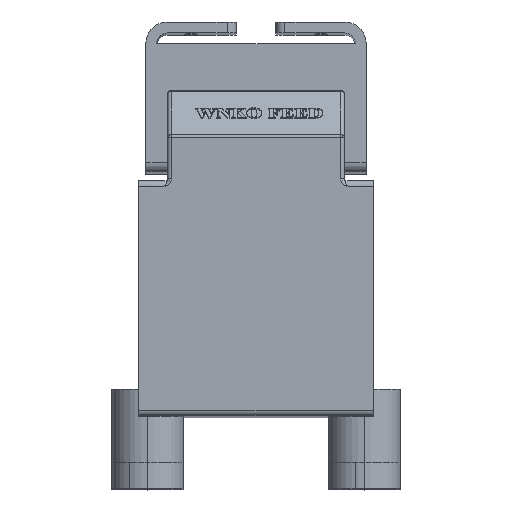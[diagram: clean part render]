
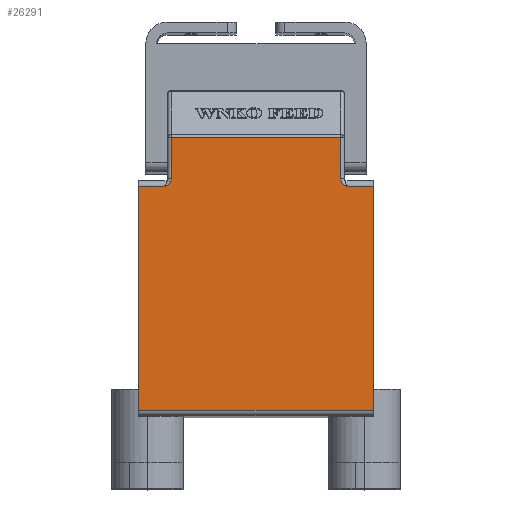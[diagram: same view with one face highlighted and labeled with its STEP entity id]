
A CAD part, top view. The second image highlights one B-rep face of the part: STEP entity #26291.
In plain terms, the highlighted planar face has unit normal (0, 0, 1).
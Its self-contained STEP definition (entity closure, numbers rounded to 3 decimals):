
#346 = ORIENTED_EDGE ( 'NONE', *, *, #31186, .F. ) ;
#682 = EDGE_CURVE ( 'NONE', #13020, #17211, #31036, .T. ) ;
#1120 = LINE ( 'NONE', #13620, #9097 ) ;
#1581 = FACE_OUTER_BOUND ( 'NONE', #20377, .T. ) ;
#1695 = EDGE_CURVE ( 'NONE', #15950, #2342, #11025, .T. ) ;
#1891 = CARTESIAN_POINT ( 'NONE',  ( -793.117, 127., 0. ) ) ;
#2342 = VERTEX_POINT ( 'NONE', #26799 ) ;
#2395 = ORIENTED_EDGE ( 'NONE', *, *, #10379, .T. ) ;
#2530 = CARTESIAN_POINT ( 'NONE',  ( -10., 127., 0. ) ) ;
#3690 = ORIENTED_EDGE ( 'NONE', *, *, #9806, .T. ) ;
#3816 = CARTESIAN_POINT ( 'NONE',  ( 8., 131., 0. ) ) ;
#4227 = ORIENTED_EDGE ( 'NONE', *, *, #25905, .F. ) ;
#4577 = PLANE ( 'NONE',  #14766 ) ;
#4722 = CARTESIAN_POINT ( 'NONE',  ( -793.117, 127., 0. ) ) ;
#4904 = LINE ( 'NONE', #31406, #17383 ) ;
#5298 = CARTESIAN_POINT ( 'NONE',  ( 8., 15., 0. ) ) ;
#6145 = CARTESIAN_POINT ( 'NONE',  ( 102., 154.172, 0. ) ) ;
#6899 = VECTOR ( 'NONE', #17850, 1000. ) ;
#7178 = ORIENTED_EDGE ( 'NONE', *, *, #682, .T. ) ;
#8672 = CARTESIAN_POINT ( 'NONE',  ( 102., 15., 0. ) ) ;
#9097 = VECTOR ( 'NONE', #18059, 1000. ) ;
#9396 = VECTOR ( 'NONE', #11363, 1000. ) ;
#9806 = EDGE_CURVE ( 'NONE', #15950, #13020, #19229, .T. ) ;
#9927 = DIRECTION ( 'NONE',  ( -1., 0., 0. ) ) ;
#10379 = EDGE_CURVE ( 'NONE', #17211, #17198, #1120, .T. ) ;
#10761 = VECTOR ( 'NONE', #19092, 1000. ) ;
#10885 = VECTOR ( 'NONE', #26768, 1000. ) ;
#11025 = LINE ( 'NONE', #13087, #6899 ) ;
#11363 = DIRECTION ( 'NONE',  ( 0., 1., 0. ) ) ;
#11751 = CIRCLE ( 'NONE', #19341, 4. ) ;
#12899 = EDGE_CURVE ( 'NONE', #14660, #28188, #11751, .T. ) ;
#12934 = LINE ( 'NONE', #2530, #19357 ) ;
#13020 = VERTEX_POINT ( 'NONE', #15924 ) ;
#13087 = CARTESIAN_POINT ( 'NONE',  ( -793.117, 127., 0. ) ) ;
#13105 = EDGE_CURVE ( 'NONE', #2342, #30356, #23844, .T. ) ;
#13620 = CARTESIAN_POINT ( 'NONE',  ( 109., 154.172, 0. ) ) ;
#14660 = VERTEX_POINT ( 'NONE', #3816 ) ;
#14766 = AXIS2_PLACEMENT_3D ( 'NONE', #1891, #28223, #16147 ) ;
#15434 = ORIENTED_EDGE ( 'NONE', *, *, #12899, .T. ) ;
#15528 = ORIENTED_EDGE ( 'NONE', *, *, #28182, .T. ) ;
#15924 = CARTESIAN_POINT ( 'NONE',  ( 102., 131., 0. ) ) ;
#15950 = VERTEX_POINT ( 'NONE', #18407 ) ;
#16147 = DIRECTION ( 'NONE',  ( 0., -1., 0. ) ) ;
#17198 = VERTEX_POINT ( 'NONE', #20722 ) ;
#17211 = VERTEX_POINT ( 'NONE', #6145 ) ;
#17311 = CARTESIAN_POINT ( 'NONE',  ( 106., 131., 0. ) ) ;
#17383 = VECTOR ( 'NONE', #26328, 1000. ) ;
#17850 = DIRECTION ( 'NONE',  ( 1., 0., 0. ) ) ;
#18059 = DIRECTION ( 'NONE',  ( -1., 0., 0. ) ) ;
#18172 = DIRECTION ( 'NONE',  ( 0., 1., 0. ) ) ;
#18407 = CARTESIAN_POINT ( 'NONE',  ( 106., 127., 0. ) ) ;
#19092 = DIRECTION ( 'NONE',  ( 0., -1., 0. ) ) ;
#19229 = CIRCLE ( 'NONE', #21750, 4. ) ;
#19341 = AXIS2_PLACEMENT_3D ( 'NONE', #24831, #29430, #9927 ) ;
#19357 = VECTOR ( 'NONE', #18172, 1000. ) ;
#19448 = CARTESIAN_POINT ( 'NONE',  ( -10., 127., 0. ) ) ;
#19697 = ORIENTED_EDGE ( 'NONE', *, *, #13105, .F. ) ;
#19773 = LINE ( 'NONE', #4722, #10885 ) ;
#20377 = EDGE_LOOP ( 'NONE', ( #19697, #24186, #3690, #7178, #2395, #26901, #15434, #346, #4227, #15528 ) ) ;
#20722 = CARTESIAN_POINT ( 'NONE',  ( 8., 154.172, 0. ) ) ;
#21359 = VECTOR ( 'NONE', #22562, 1000. ) ;
#21750 = AXIS2_PLACEMENT_3D ( 'NONE', #17311, #22222, #24936 ) ;
#22222 = DIRECTION ( 'NONE',  ( 0., 0., -1. ) ) ;
#22562 = DIRECTION ( 'NONE',  ( 0., -1., 0. ) ) ;
#23844 = LINE ( 'NONE', #28920, #10761 ) ;
#24041 = EDGE_CURVE ( 'NONE', #17198, #14660, #27497, .T. ) ;
#24186 = ORIENTED_EDGE ( 'NONE', *, *, #1695, .F. ) ;
#24626 = VERTEX_POINT ( 'NONE', #19448 ) ;
#24831 = CARTESIAN_POINT ( 'NONE',  ( 4., 131., 0. ) ) ;
#24936 = DIRECTION ( 'NONE',  ( 0., 1., 0. ) ) ;
#25027 = VERTEX_POINT ( 'NONE', #26565 ) ;
#25905 = EDGE_CURVE ( 'NONE', #25027, #24626, #12934, .T. ) ;
#26291 = ADVANCED_FACE ( 'NONE', ( #1581 ), #4577, .T. ) ;
#26328 = DIRECTION ( 'NONE',  ( 1., 0., 0. ) ) ;
#26565 = CARTESIAN_POINT ( 'NONE',  ( -10., 3., 0. ) ) ;
#26768 = DIRECTION ( 'NONE',  ( 1., 0., 0. ) ) ;
#26799 = CARTESIAN_POINT ( 'NONE',  ( 120., 127., 0. ) ) ;
#26901 = ORIENTED_EDGE ( 'NONE', *, *, #24041, .T. ) ;
#27497 = LINE ( 'NONE', #5298, #21359 ) ;
#28182 = EDGE_CURVE ( 'NONE', #25027, #30356, #4904, .T. ) ;
#28188 = VERTEX_POINT ( 'NONE', #31242 ) ;
#28223 = DIRECTION ( 'NONE',  ( 0., 0., 1. ) ) ;
#28920 = CARTESIAN_POINT ( 'NONE',  ( 120., 127., 0. ) ) ;
#29430 = DIRECTION ( 'NONE',  ( 0., 0., -1. ) ) ;
#30356 = VERTEX_POINT ( 'NONE', #30707 ) ;
#30707 = CARTESIAN_POINT ( 'NONE',  ( 120., 3., 0. ) ) ;
#31036 = LINE ( 'NONE', #8672, #9396 ) ;
#31186 = EDGE_CURVE ( 'NONE', #24626, #28188, #19773, .T. ) ;
#31242 = CARTESIAN_POINT ( 'NONE',  ( 4., 127., 0. ) ) ;
#31406 = CARTESIAN_POINT ( 'NONE',  ( -793.117, 3., 0. ) ) ;
